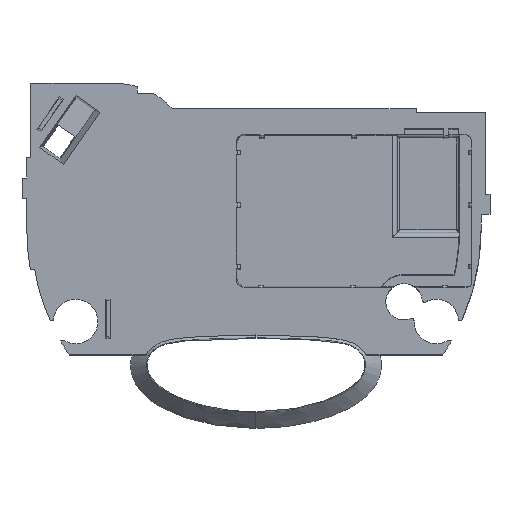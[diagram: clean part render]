
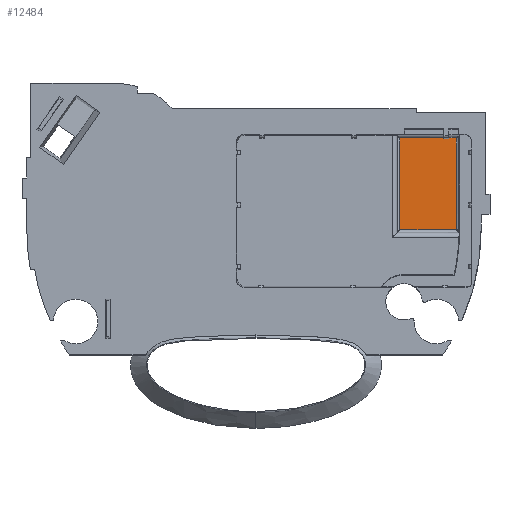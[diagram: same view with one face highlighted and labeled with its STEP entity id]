
A CAD part, top view. The second image highlights one B-rep face of the part: STEP entity #12484.
In plain terms, the highlighted planar face has unit normal (0, 0, 1).
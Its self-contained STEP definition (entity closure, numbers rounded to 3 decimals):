
#4457=DIRECTION('',(1.,0.,0.));
#4458=VECTOR('',#4457,5.45);
#4459=CARTESIAN_POINT('',(17.79,11.608,1.9));
#4460=LINE('',#4459,#4458);
#4461=DIRECTION('',(0.,-1.,0.));
#4462=VECTOR('',#4461,0.079);
#4463=CARTESIAN_POINT('',(23.24,11.608,1.9));
#4464=LINE('',#4463,#4462);
#4465=DIRECTION('',(1.,0.,0.));
#4466=VECTOR('',#4465,0.6);
#4467=CARTESIAN_POINT('',(23.24,11.529,1.9));
#4468=LINE('',#4467,#4466);
#4469=DIRECTION('',(0.,-1.,0.));
#4470=VECTOR('',#4469,0.079);
#4471=CARTESIAN_POINT('',(23.84,11.608,1.9));
#4472=LINE('',#4471,#4470);
#4473=DIRECTION('',(1.,0.,0.));
#4474=VECTOR('',#4473,0.94);
#4475=CARTESIAN_POINT('',(23.84,11.608,1.9));
#4476=LINE('',#4475,#4474);
#4477=DIRECTION('',(0.,-1.,0.));
#4478=VECTOR('',#4477,11.308);
#4479=CARTESIAN_POINT('',(24.78,11.608,1.9));
#4480=LINE('',#4479,#4478);
#4481=CARTESIAN_POINT('',(0.,0.3,1.9));
#4482=DIRECTION('',(0.,0.,-1.));
#4483=DIRECTION('',(1.,0.,0.));
#4484=AXIS2_PLACEMENT_3D('',#4481,#4482,#4483);
#4486=DIRECTION('',(-1.,0.,0.));
#4487=VECTOR('',#4486,6.99);
#4488=CARTESIAN_POINT('',(24.78,0.249,1.9));
#4489=LINE('',#4488,#4487);
#4490=DIRECTION('',(0.,1.,0.));
#4491=VECTOR('',#4490,11.359);
#4492=CARTESIAN_POINT('',(17.79,0.249,1.9));
#4493=LINE('',#4492,#4491);
#6176=CARTESIAN_POINT('',(23.24,11.529,1.9));
#6177=CARTESIAN_POINT('',(23.84,11.529,1.9));
#6178=VERTEX_POINT('',#6176);
#6179=VERTEX_POINT('',#6177);
#6220=CARTESIAN_POINT('',(24.78,0.3,1.9));
#6222=VERTEX_POINT('',#6220);
#6224=CARTESIAN_POINT('',(23.24,11.608,1.9));
#6226=VERTEX_POINT('',#6224);
#6228=CARTESIAN_POINT('',(17.79,11.608,1.9));
#6229=VERTEX_POINT('',#6228);
#6234=CARTESIAN_POINT('',(17.79,0.249,1.9));
#6235=VERTEX_POINT('',#6234);
#6238=CARTESIAN_POINT('',(24.78,0.249,1.9));
#6239=VERTEX_POINT('',#6238);
#6240=CARTESIAN_POINT('',(24.78,11.608,1.9));
#6241=VERTEX_POINT('',#6240);
#6245=CARTESIAN_POINT('',(23.84,11.608,1.9));
#6247=VERTEX_POINT('',#6245);
#12463=CARTESIAN_POINT('',(0.,0.,1.9));
#12464=DIRECTION('',(0.,0.,1.));
#12465=DIRECTION('',(1.,0.,0.));
#12466=AXIS2_PLACEMENT_3D('',#12463,#12464,#12465);
#12467=PLANE('',#12466);
#12469=ORIENTED_EDGE('',*,*,#12468,.T.);
#12471=ORIENTED_EDGE('',*,*,#12470,.T.);
#12473=ORIENTED_EDGE('',*,*,#12472,.T.);
#12474=ORIENTED_EDGE('',*,*,#6644,.F.);
#12475=ORIENTED_EDGE('',*,*,#6669,.T.);
#12476=ORIENTED_EDGE('',*,*,#12455,.T.);
#12477=ORIENTED_EDGE('',*,*,#12444,.T.);
#12479=ORIENTED_EDGE('',*,*,#12478,.T.);
#12481=ORIENTED_EDGE('',*,*,#12480,.T.);
#12482=EDGE_LOOP('',(#12469,#12471,#12473,#12474,#12475,#12476,#12477,#12479,
#12481));
#12483=FACE_OUTER_BOUND('',#12482,.F.);
#12484=ADVANCED_FACE('',(#12483),#12467,.T.);
#4485=CIRCLE('',#4484,24.78);
#6644=EDGE_CURVE('',#6247,#6179,#4472,.T.);
#6669=EDGE_CURVE('',#6247,#6241,#4476,.T.);
#12444=EDGE_CURVE('',#6222,#6239,#4485,.T.);
#12455=EDGE_CURVE('',#6241,#6222,#4480,.T.);
#12468=EDGE_CURVE('',#6229,#6226,#4460,.T.);
#12470=EDGE_CURVE('',#6226,#6178,#4464,.T.);
#12472=EDGE_CURVE('',#6178,#6179,#4468,.T.);
#12478=EDGE_CURVE('',#6239,#6235,#4489,.T.);
#12480=EDGE_CURVE('',#6235,#6229,#4493,.T.);
